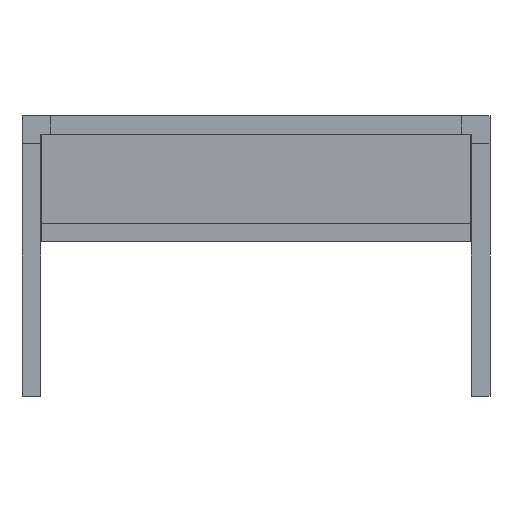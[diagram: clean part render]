
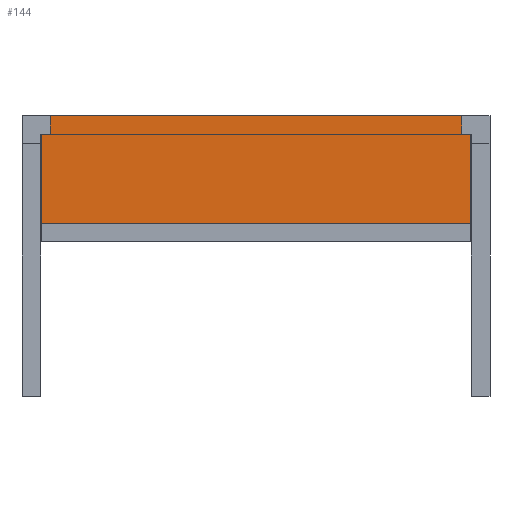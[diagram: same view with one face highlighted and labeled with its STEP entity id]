
A CAD part, front view. The second image highlights one B-rep face of the part: STEP entity #144.
In plain terms, the highlighted planar face has unit normal (0, -1, 0).
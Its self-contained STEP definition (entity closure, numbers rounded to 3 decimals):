
#144 = ADVANCED_FACE( '', ( #284 ), #285, .F. );
#284 = FACE_OUTER_BOUND( '', #417, .T. );
#285 = PLANE( '', #418 );
#417 = EDGE_LOOP( '', ( #796, #797, #798, #799, #800, #801, #802, #803 ) );
#418 = AXIS2_PLACEMENT_3D( '', #804, #805, #806 );
#796 = ORIENTED_EDGE( '', *, *, #964, .F. );
#797 = ORIENTED_EDGE( '', *, *, #913, .F. );
#798 = ORIENTED_EDGE( '', *, *, #855, .T. );
#799 = ORIENTED_EDGE( '', *, *, #981, .F. );
#800 = ORIENTED_EDGE( '', *, *, #902, .T. );
#801 = ORIENTED_EDGE( '', *, *, #946, .T. );
#802 = ORIENTED_EDGE( '', *, *, #832, .T. );
#803 = ORIENTED_EDGE( '', *, *, #959, .T. );
#804 = CARTESIAN_POINT( '', ( 22., 23., 13.5 ) );
#805 = DIRECTION( '', ( 0., 1., 0. ) );
#806 = DIRECTION( '', ( 0., 0., 1. ) );
#832 = EDGE_CURVE( '', #994, #995, #996, .T. );
#855 = EDGE_CURVE( '', #1035, #1032, #1036, .T. );
#902 = EDGE_CURVE( '', #1112, #1110, #1113, .T. );
#913 = EDGE_CURVE( '', #1035, #1127, #1128, .T. );
#946 = EDGE_CURVE( '', #1110, #994, #1174, .T. );
#959 = EDGE_CURVE( '', #995, #1190, #1192, .T. );
#964 = EDGE_CURVE( '', #1127, #1190, #1197, .T. );
#981 = EDGE_CURVE( '', #1112, #1032, #1215, .T. );
#994 = VERTEX_POINT( '', #1232 );
#995 = VERTEX_POINT( '', #1233 );
#996 = LINE( '', #1234, #1235 );
#1032 = VERTEX_POINT( '', #1288 );
#1035 = VERTEX_POINT( '', #1292 );
#1036 = LINE( '', #1293, #1294 );
#1110 = VERTEX_POINT( '', #1406 );
#1112 = VERTEX_POINT( '', #1409 );
#1113 = LINE( '', #1410, #1411 );
#1127 = VERTEX_POINT( '', #1432 );
#1128 = LINE( '', #1433, #1434 );
#1174 = LINE( '', #1503, #1504 );
#1190 = VERTEX_POINT( '', #1528 );
#1192 = LINE( '', #1531, #1532 );
#1197 = LINE( '', #1539, #1540 );
#1215 = LINE( '', #1564, #1565 );
#1232 = CARTESIAN_POINT( '', ( -22., 23., 11.5 ) );
#1233 = CARTESIAN_POINT( '', ( -22.95, 23., 11.5 ) );
#1234 = CARTESIAN_POINT( '', ( 22.95, 23., 11.5 ) );
#1235 = VECTOR( '', #1572, 1000. );
#1288 = CARTESIAN_POINT( '', ( 22., 23., 11.5 ) );
#1292 = CARTESIAN_POINT( '', ( 22.95, 23., 11.5 ) );
#1293 = CARTESIAN_POINT( '', ( 22.95, 23., 11.5 ) );
#1294 = VECTOR( '', #1591, 1000. );
#1406 = CARTESIAN_POINT( '', ( -22., 23., 13.5 ) );
#1409 = CARTESIAN_POINT( '', ( 22., 23., 13.5 ) );
#1410 = CARTESIAN_POINT( '', ( 22., 23., 13.5 ) );
#1411 = VECTOR( '', #1631, 1000. );
#1432 = CARTESIAN_POINT( '', ( 22.95, 23., 2. ) );
#1433 = CARTESIAN_POINT( '', ( 22.95, 23., 11.5 ) );
#1434 = VECTOR( '', #1639, 1000. );
#1503 = CARTESIAN_POINT( '', ( -22., 23., 13.5 ) );
#1504 = VECTOR( '', #1663, 1000. );
#1528 = CARTESIAN_POINT( '', ( -22.95, 23., 2. ) );
#1531 = CARTESIAN_POINT( '', ( -22.95, 23., 11.5 ) );
#1532 = VECTOR( '', #1673, 1000. );
#1539 = CARTESIAN_POINT( '', ( 22., 23., 2. ) );
#1540 = VECTOR( '', #1676, 1000. );
#1564 = CARTESIAN_POINT( '', ( 22., 23., 13.5 ) );
#1565 = VECTOR( '', #1683, 1000. );
#1572 = DIRECTION( '', ( -1., 0., 0. ) );
#1591 = DIRECTION( '', ( -1., 0., 0. ) );
#1631 = DIRECTION( '', ( -1., 0., 0. ) );
#1639 = DIRECTION( '', ( 0., 0., -1. ) );
#1663 = DIRECTION( '', ( 0., 0., -1. ) );
#1673 = DIRECTION( '', ( 0., 0., -1. ) );
#1676 = DIRECTION( '', ( -1., 0., 0. ) );
#1683 = DIRECTION( '', ( 0., 0., -1. ) );
